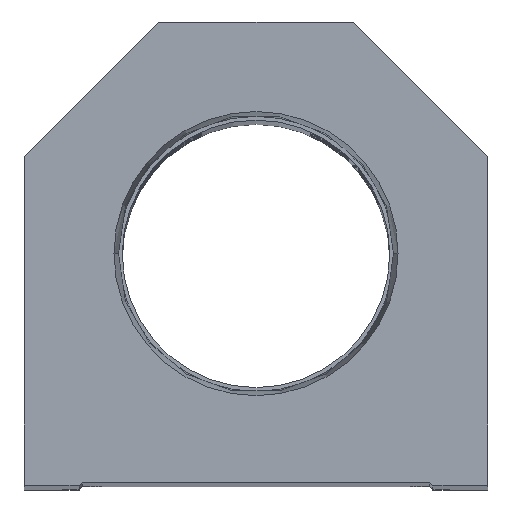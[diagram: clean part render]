
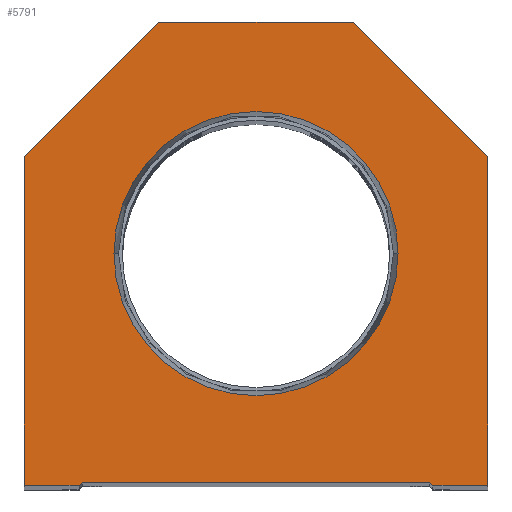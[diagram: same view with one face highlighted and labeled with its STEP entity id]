
A CAD part, top view. The second image highlights one B-rep face of the part: STEP entity #5791.
In plain terms, the highlighted planar face has unit normal (0, 0, 1).
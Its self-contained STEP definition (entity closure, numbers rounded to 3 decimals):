
#40 = VECTOR ( 'NONE', #5407, 1000. ) ;
#104 = DIRECTION ( 'NONE',  ( -1., 0., 0. ) ) ;
#407 = CARTESIAN_POINT ( 'NONE',  ( -16., 76.2, 0. ) ) ;
#535 = LINE ( 'NONE', #13210, #40 ) ;
#561 = DIRECTION ( 'NONE',  ( 1., 0., 0. ) ) ;
#591 = DIRECTION ( 'NONE',  ( -0.707, 0.707, 0. ) ) ;
#707 = LINE ( 'NONE', #4201, #15117 ) ;
#729 = ORIENTED_EDGE ( 'NONE', *, *, #7886, .T. ) ;
#787 = VERTEX_POINT ( 'NONE', #4517 ) ;
#900 = EDGE_CURVE ( 'NONE', #4113, #9025, #8418, .T. ) ;
#990 = DIRECTION ( 'NONE',  ( -0.707, -0.707, 0. ) ) ;
#1399 = ORIENTED_EDGE ( 'NONE', *, *, #12150, .T. ) ;
#1649 = EDGE_CURVE ( 'NONE', #4270, #11130, #11686, .T. ) ;
#1751 = DIRECTION ( 'NONE',  ( 1., 0., 0. ) ) ;
#1995 = CARTESIAN_POINT ( 'NONE',  ( 38.1, 54.1, 0. ) ) ;
#2089 = LINE ( 'NONE', #19435, #10510 ) ;
#2309 = VERTEX_POINT ( 'NONE', #19393 ) ;
#2317 = ORIENTED_EDGE ( 'NONE', *, *, #14460, .T. ) ;
#2335 = CARTESIAN_POINT ( 'NONE',  ( -28.6, 0.5, 0. ) ) ;
#2362 = DIRECTION ( 'NONE',  ( 0., 0., 1. ) ) ;
#3476 = EDGE_CURVE ( 'NONE', #11130, #4270, #7741, .T. ) ;
#3645 = EDGE_CURVE ( 'NONE', #787, #7029, #19160, .T. ) ;
#3884 = CARTESIAN_POINT ( 'NONE',  ( -14.55, 14.55, 0. ) ) ;
#3940 = CARTESIAN_POINT ( 'NONE',  ( 28.6, 0., 0. ) ) ;
#4030 = CARTESIAN_POINT ( 'NONE',  ( -38.1, 54.1, 0. ) ) ;
#4113 = VERTEX_POINT ( 'NONE', #18495 ) ;
#4191 = VECTOR ( 'NONE', #11700, 1000. ) ;
#4201 = CARTESIAN_POINT ( 'NONE',  ( -28.6, 0.5, 0. ) ) ;
#4270 = VERTEX_POINT ( 'NONE', #10398 ) ;
#4517 = CARTESIAN_POINT ( 'NONE',  ( 38.1, 54.1, 0. ) ) ;
#4707 = CARTESIAN_POINT ( 'NONE',  ( -28.6, 0., 0. ) ) ;
#4909 = ORIENTED_EDGE ( 'NONE', *, *, #3645, .T. ) ;
#4922 = ORIENTED_EDGE ( 'NONE', *, *, #9317, .T. ) ;
#5379 = VERTEX_POINT ( 'NONE', #16367 ) ;
#5407 = DIRECTION ( 'NONE',  ( 0.707, -0.707, 0. ) ) ;
#5427 = LINE ( 'NONE', #6954, #4191 ) ;
#5791 = ADVANCED_FACE ( 'NONE', ( #11706, #8315 ), #10141, .T. ) ;
#6911 = DIRECTION ( 'NONE',  ( 1., 0., 0. ) ) ;
#6954 = CARTESIAN_POINT ( 'NONE',  ( -38.1, 0., 0. ) ) ;
#7029 = VERTEX_POINT ( 'NONE', #19781 ) ;
#7030 = DIRECTION ( 'NONE',  ( 1., 0., 0. ) ) ;
#7313 = DIRECTION ( 'NONE',  ( 1., 0., 0. ) ) ;
#7413 = VECTOR ( 'NONE', #591, 1000. ) ;
#7741 = CIRCLE ( 'NONE', #16292, 23.374 ) ;
#7886 = EDGE_CURVE ( 'NONE', #2309, #14724, #5427, .T. ) ;
#8315 = FACE_OUTER_BOUND ( 'NONE', #9140, .T. ) ;
#8418 = LINE ( 'NONE', #3884, #17924 ) ;
#8671 = LINE ( 'NONE', #3940, #10824 ) ;
#8742 = DIRECTION ( 'NONE',  ( 0., 0., 1. ) ) ;
#9025 = VERTEX_POINT ( 'NONE', #2335 ) ;
#9104 = EDGE_CURVE ( 'NONE', #17867, #5379, #535, .T. ) ;
#9140 = EDGE_LOOP ( 'NONE', ( #18556, #13723, #4922, #10036, #19364, #14266, #4909, #2317, #1399, #729 ) ) ;
#9317 = EDGE_CURVE ( 'NONE', #9025, #17867, #707, .T. ) ;
#9963 = DIRECTION ( 'NONE',  ( 0., 1., 0. ) ) ;
#10036 = ORIENTED_EDGE ( 'NONE', *, *, #9104, .T. ) ;
#10141 = PLANE ( 'NONE',  #11353 ) ;
#10173 = ORIENTED_EDGE ( 'NONE', *, *, #3476, .F. ) ;
#10250 = DIRECTION ( 'NONE',  ( 0.707, 0.707, 0. ) ) ;
#10398 = CARTESIAN_POINT ( 'NONE',  ( 23.374, 38.1, 0. ) ) ;
#10510 = VECTOR ( 'NONE', #9963, 1000. ) ;
#10824 = VECTOR ( 'NONE', #7030, 1000. ) ;
#10938 = CARTESIAN_POINT ( 'NONE',  ( 16., 76.2, 0. ) ) ;
#11130 = VERTEX_POINT ( 'NONE', #12172 ) ;
#11353 = AXIS2_PLACEMENT_3D ( 'NONE', #17992, #2362, #561 ) ;
#11686 = CIRCLE ( 'NONE', #19566, 23.374 ) ;
#11700 = DIRECTION ( 'NONE',  ( 0., -1., 0. ) ) ;
#11706 = FACE_BOUND ( 'NONE', #17787, .T. ) ;
#11844 = CARTESIAN_POINT ( 'NONE',  ( 28.6, 0.5, 0. ) ) ;
#12150 = EDGE_CURVE ( 'NONE', #19896, #2309, #13294, .T. ) ;
#12172 = CARTESIAN_POINT ( 'NONE',  ( -23.374, 38.1, 0. ) ) ;
#13210 = CARTESIAN_POINT ( 'NONE',  ( 14.55, 14.55, 0. ) ) ;
#13294 = LINE ( 'NONE', #4030, #17155 ) ;
#13382 = CARTESIAN_POINT ( 'NONE',  ( 0., 38.1, 0. ) ) ;
#13704 = DIRECTION ( 'NONE',  ( 0., 0., 1. ) ) ;
#13723 = ORIENTED_EDGE ( 'NONE', *, *, #900, .T. ) ;
#14266 = ORIENTED_EDGE ( 'NONE', *, *, #16476, .T. ) ;
#14460 = EDGE_CURVE ( 'NONE', #7029, #19896, #20298, .T. ) ;
#14724 = VERTEX_POINT ( 'NONE', #18521 ) ;
#15117 = VECTOR ( 'NONE', #6911, 1000. ) ;
#15718 = LINE ( 'NONE', #4707, #16540 ) ;
#16116 = EDGE_CURVE ( 'NONE', #5379, #16428, #8671, .T. ) ;
#16292 = AXIS2_PLACEMENT_3D ( 'NONE', #18038, #13704, #7313 ) ;
#16367 = CARTESIAN_POINT ( 'NONE',  ( 29.1, 0., 0. ) ) ;
#16428 = VERTEX_POINT ( 'NONE', #16461 ) ;
#16461 = CARTESIAN_POINT ( 'NONE',  ( 38.1, 0., 0. ) ) ;
#16476 = EDGE_CURVE ( 'NONE', #16428, #787, #2089, .T. ) ;
#16540 = VECTOR ( 'NONE', #1751, 1000. ) ;
#16809 = ORIENTED_EDGE ( 'NONE', *, *, #1649, .F. ) ;
#17155 = VECTOR ( 'NONE', #990, 1000. ) ;
#17787 = EDGE_LOOP ( 'NONE', ( #16809, #10173 ) ) ;
#17867 = VERTEX_POINT ( 'NONE', #11844 ) ;
#17924 = VECTOR ( 'NONE', #10250, 1000. ) ;
#17992 = CARTESIAN_POINT ( 'NONE',  ( 0., 0., 0. ) ) ;
#18038 = CARTESIAN_POINT ( 'NONE',  ( 0., 38.1, 0. ) ) ;
#18364 = VECTOR ( 'NONE', #104, 1000. ) ;
#18495 = CARTESIAN_POINT ( 'NONE',  ( -29.1, 0., 0. ) ) ;
#18521 = CARTESIAN_POINT ( 'NONE',  ( -38.1, 0., 0. ) ) ;
#18556 = ORIENTED_EDGE ( 'NONE', *, *, #19052, .T. ) ;
#19052 = EDGE_CURVE ( 'NONE', #14724, #4113, #15718, .T. ) ;
#19160 = LINE ( 'NONE', #1995, #7413 ) ;
#19364 = ORIENTED_EDGE ( 'NONE', *, *, #16116, .T. ) ;
#19393 = CARTESIAN_POINT ( 'NONE',  ( -38.1, 54.1, 0. ) ) ;
#19435 = CARTESIAN_POINT ( 'NONE',  ( 38.1, 0., 0. ) ) ;
#19566 = AXIS2_PLACEMENT_3D ( 'NONE', #13382, #8742, #19657 ) ;
#19657 = DIRECTION ( 'NONE',  ( 1., 0., 0. ) ) ;
#19781 = CARTESIAN_POINT ( 'NONE',  ( 16., 76.2, 0. ) ) ;
#19896 = VERTEX_POINT ( 'NONE', #407 ) ;
#20298 = LINE ( 'NONE', #10938, #18364 ) ;
